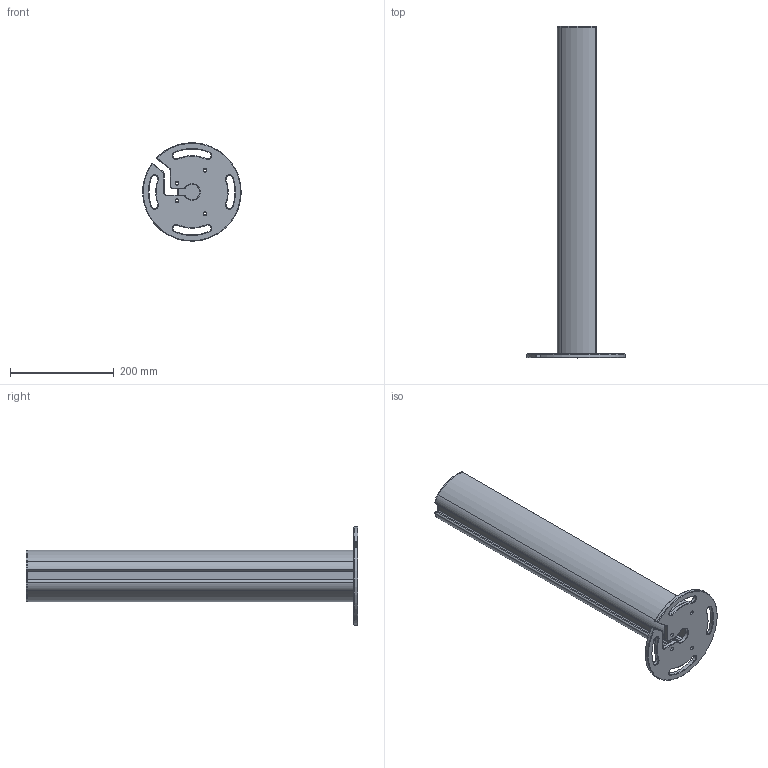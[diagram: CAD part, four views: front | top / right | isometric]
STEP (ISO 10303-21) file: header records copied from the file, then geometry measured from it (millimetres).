
FILE_DESCRIPTION((''),'2;1');
FILE_NAME('ESQC_ASM','2022-07-19T12:09:16',('18822879468'),(''),'CREO PARAMETRIC BY PTC INC, 2019010','CREO PARAMETRIC BY PTC INC, 2019010','');
FILE_SCHEMA(('CONFIG_CONTROL_DESIGN'));
Length unit declared in the file: millimetre
Products named in the file (5): 00; _-0001; _-0002; 000; ESQC_ASM
Assembly tree (4 placements, depth 2):
  ESQC_ASM
    00
    _-0001
    _-0002
    000
Bounding box: 189.81 x 640 x 189.85 mm (x, y, z)
Volume: 1036972.8 mm3; surface area: 531864 mm2
Topology: 4 solids, 4 shells, 239 faces, 613 edges, 378 vertices
Faces by surface type: cylinder 98, plane 73, cone 68
Entity records: 7388 total; most frequent: DIRECTION 1365, CARTESIAN_POINT 1235, ORIENTED_EDGE 1218, EDGE_CURVE 609, AXIS2_PLACEMENT_3D 508, VERTEX_POINT 378, VECTOR 349, LINE 349
